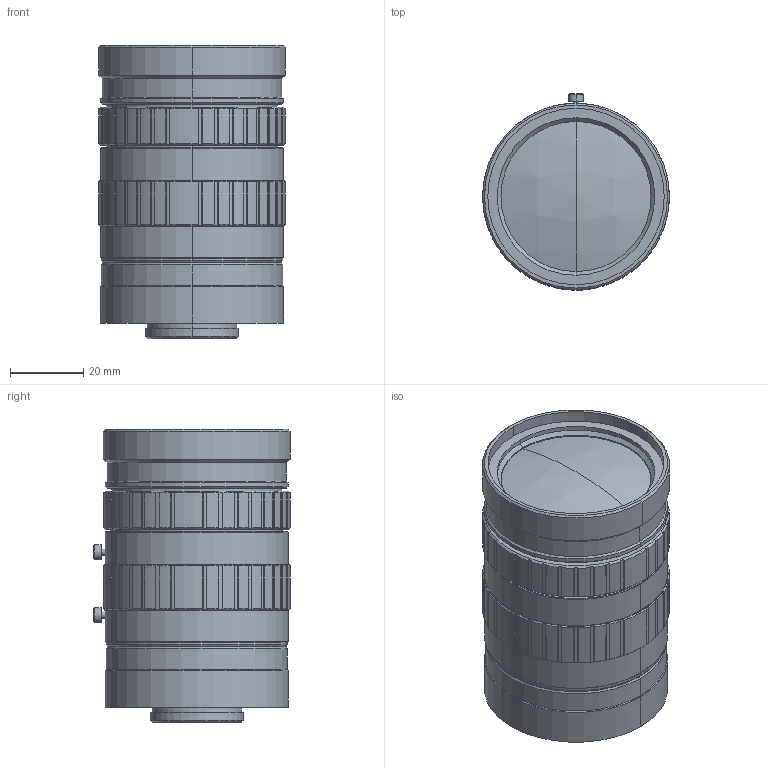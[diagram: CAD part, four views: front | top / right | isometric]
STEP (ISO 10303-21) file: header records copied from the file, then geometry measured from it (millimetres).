
FILE_DESCRIPTION(('LS-FFL-0121'),'2;1');
FILE_NAME('LS-FFL-0121.stp','2026-10-15T21:51:39',('LumaSpec Vision'),('LumaSpec Vision'),'LumaSpec Vision','LumaSpec Vision','');
FILE_SCHEMA(('AUTOMOTIVE_DESIGN { 1 0 10303 214 1 1 1 1 }'));
Length unit declared in the file: millimetre
Products named in the file (1): LS-FFL-0121
Bounding box: 51 x 53.6 x 80.01 mm (x, y, z)
Volume: 143877 mm3; surface area: 18821.7 mm2
Topology: 1 solids, 1 shells, 353 faces, 964 edges, 627 vertices
Faces by surface type: cylinder 170, plane 145, cone 36, sphere 2
Entity records: 30690 total; most frequent: CARTESIAN_POINT 12493, DIRECTION 3140, ORIENTED_EDGE 1928, PCURVE 1928, DEFINITIONAL_REPRESENTATION 1928, LINE 1680, VECTOR 1680, EDGE_CURVE 964
